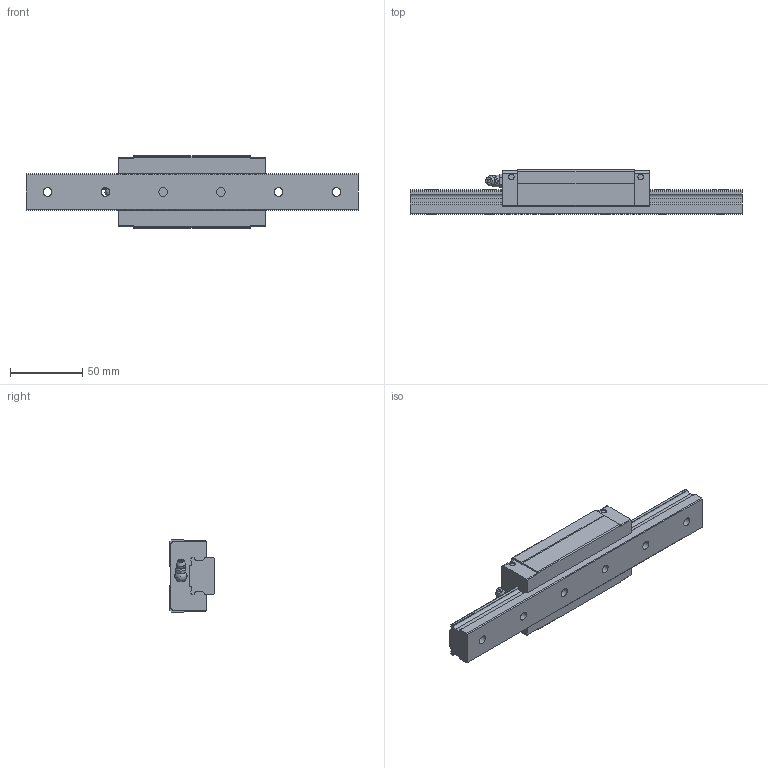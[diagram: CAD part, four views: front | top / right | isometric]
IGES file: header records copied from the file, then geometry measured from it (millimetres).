
Start section: Data from Parasolid IGES Translator 26.0.171, Copyright(c) 2006 Siemens PLM Software. All Rights Reserved.
Global section: file name: SVR25LR1SS-230L_G15_0_B-M6F_64_0_0_0_1.igs; native system: By Siemens PLM Incorporated; preprocessor: XPlus GENERIC/IGES 26.0.171; author: Noname; organization: Noname; date: 20240517.070723; units: millimetre
Bounding box: 230 x 31 x 50 mm (x, y, z)
Surface area: 44402.4 mm2 (no closed solid volume)
Topology: 0 solids, 0 shells, 185 faces, 1006 edges, 964 vertices
Faces by surface type: extrusion 94, revolution 91
